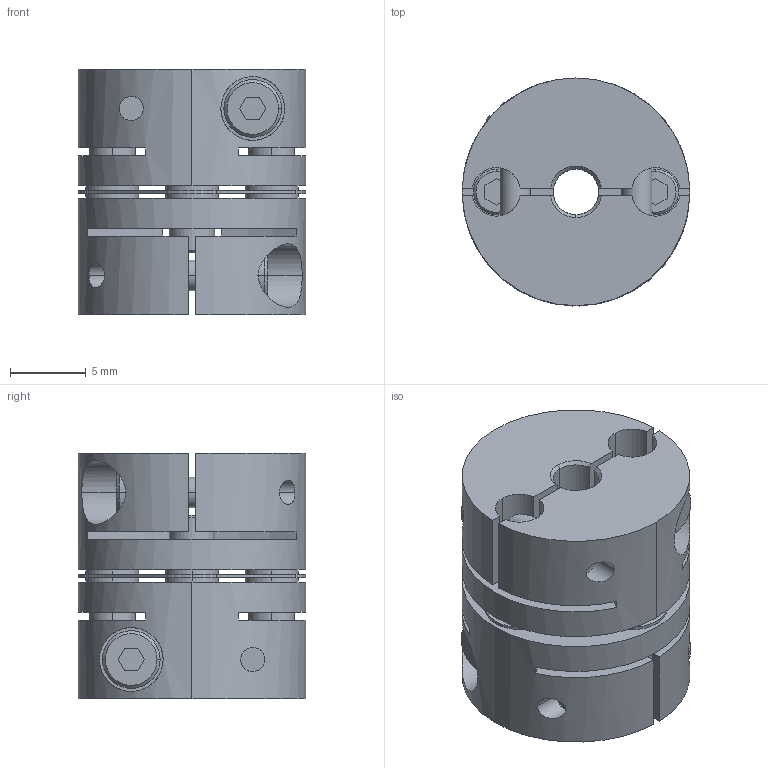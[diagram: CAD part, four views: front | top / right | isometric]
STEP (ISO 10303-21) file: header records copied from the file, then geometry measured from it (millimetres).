
FILE_DESCRIPTION((''),'2;1');
FILE_NAME('LAS-15C-3×4.5.stp','2016-04-21T12:27:28',(''),(''),'AutoCAD STEP 2000i','AutoCAD 2000i',', , ');
FILE_SCHEMA(('CONFIG_CONTROL_DESIGN'));
Length unit declared in the file: millimetre
Products named in the file (5): LAS-15C-3×3; 忣兜1; LA-1502-D03-1; LA-1502-D03; LAS15-ITA
Assembly tree (4 placements, depth 2):
  LAS-15C-3×3
    忣兜1
    LA-1502-D03-1
    LA-1502-D03
    LAS15-ITA
Bounding box: 15 x 15 x 16.2 mm (x, y, z)
Volume: 2229.7 mm3; surface area: 2706.8 mm2
Topology: 1 solids, 1 shells, 236 faces, 624 edges, 408 vertices
Faces by surface type: plane 112, cylinder 96, cone 28
Entity records: 8155 total; most frequent: CARTESIAN_POINT 1961, DIRECTION 1302, ORIENTED_EDGE 1248, EDGE_CURVE 624, AXIS2_PLACEMENT_3D 477, VERTEX_POINT 408, VECTOR 348, LINE 348
